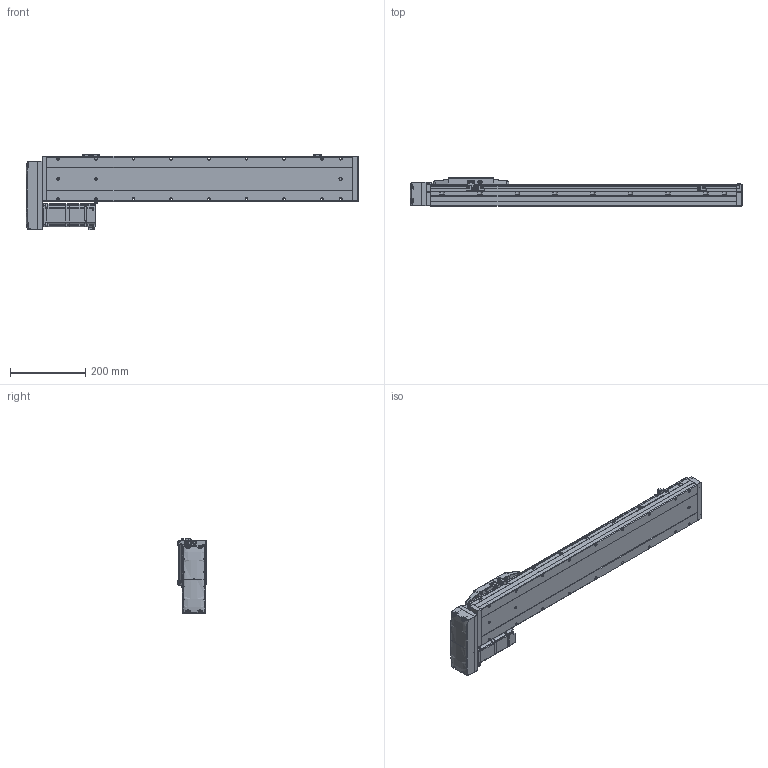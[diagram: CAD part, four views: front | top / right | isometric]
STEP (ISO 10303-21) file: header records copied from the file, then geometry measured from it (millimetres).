
FILE_DESCRIPTION (( 'STEP AP214' ), '1' );
FILE_NAME ('CTH12-L10-S600-BR-C40（简）.STEP', '2023-02-04T07:05:47', ( '' ), ( '' ), 'SwSTEP 2.0', 'SolidWorks 2018', '' );
FILE_SCHEMA (( 'AUTOMOTIVE_DESIGN' ));
Length unit declared in the file: millimetre
Products named in the file (24): CTH12-BL_body_4; 内六角圆柱头螺钉M3-1; CTH12侧装连接板（标准）简; M5蹟隊; 内六角圆柱头螺钉M3-2; PM-Y45; 嫖萇羲壽郪磁1; CTH12賑怢ㄗ潠ㄘ; 蚐郲; CTH400W假蚾啣; CTH12覜茼え; CTH12-L10-S600-BR-C40（简）; 湮賑怢  裔赽-1(CTH12)賑怢; 内六角圆柱头螺钉M3; AC60_Valor predeterminado; CTH400W垫板（3个厚）; CTH12底座-L811简（600行程）; CTH12賑怢郪磁; 嫖萇羲壽郪磁2; CTH12_body_3; CTH12耜蚾裔; CTH12; hex nuts, style 1-grades ab gb_GB_FASTENER_NUT_SNAB1 M3-N; CTH嫖萇羲壽假蚾啣
Assembly tree (44 placements, depth 4):
  CTH12-L10-S600-BR-C40（简）
    CTH12底座-L811简（600行程）
    蚐郲  x2
    CTH12_body_3
    CTH12-BL_body_4
    CTH12侧装连接板（标准）简
    CTH12耜蚾裔
    CTH12賑怢郪磁
      CTH12
        湮賑怢  裔赽-1(CTH12)賑怢
        CTH12賑怢ㄗ潠ㄘ
    CTH12覜茼え
    嫖萇羲壽郪磁1  x2
      CTH嫖萇羲壽假蚾啣
      PM-Y45
      内六角圆柱头螺钉M3-2
      内六角圆柱头螺钉M3-1
      hex nuts, style 1-grades ab gb_GB_FASTENER_NUT_SNAB1 M3-N
    嫖萇羲壽郪磁2
      CTH嫖萇羲壽假蚾啣
      PM-Y45
      内六角圆柱头螺钉M3-1  x2
      内六角圆柱头螺钉M3-2  x2
      hex nuts, style 1-grades ab gb_GB_FASTENER_NUT_SNAB1 M3-N  x2
    CTH400W垫板（3个厚）
    AC60_Valor predeterminado
    内六角圆柱头螺钉M3  x6
    M5蹟隊  x4
    CTH400W假蚾啣
Bounding box: 881.5 x 76 x 201.06 mm (x, y, z)
Volume: 6249293.7 mm3; surface area: 614229.3 mm2
Topology: 47 solids, 48 shells, 2819 faces, 7184 edges, 4583 vertices
Faces by surface type: plane 1535, cylinder 789, cone 343, bspline 100, torus 52
Entity records: 81757 total; most frequent: CARTESIAN_POINT 22470, ORIENTED_EDGE 11548, DIRECTION 11229, EDGE_CURVE 5774, AXIS2_PLACEMENT_3D 3800, VERTEX_POINT 3687, VECTOR 3629, LINE 3629
